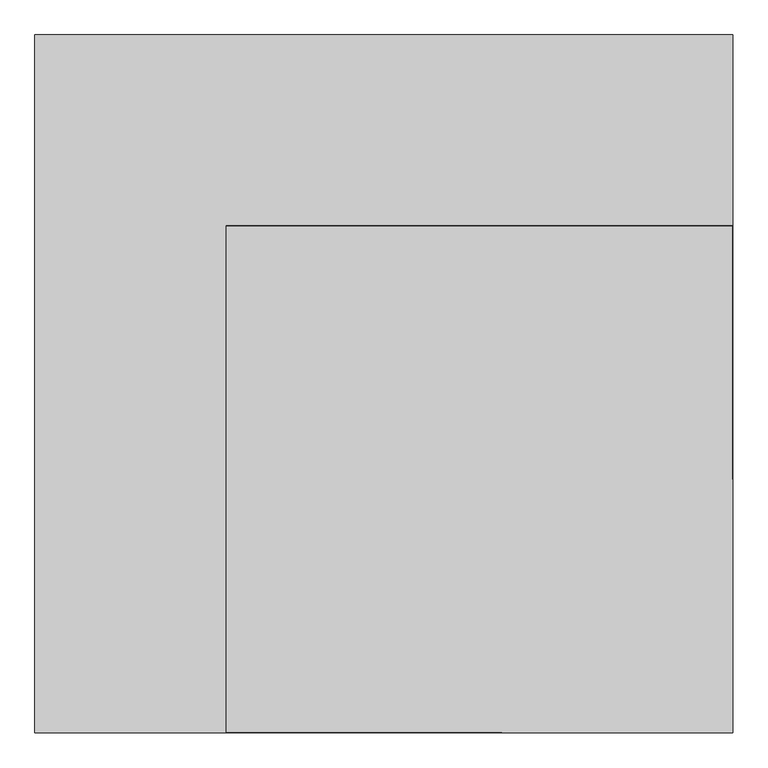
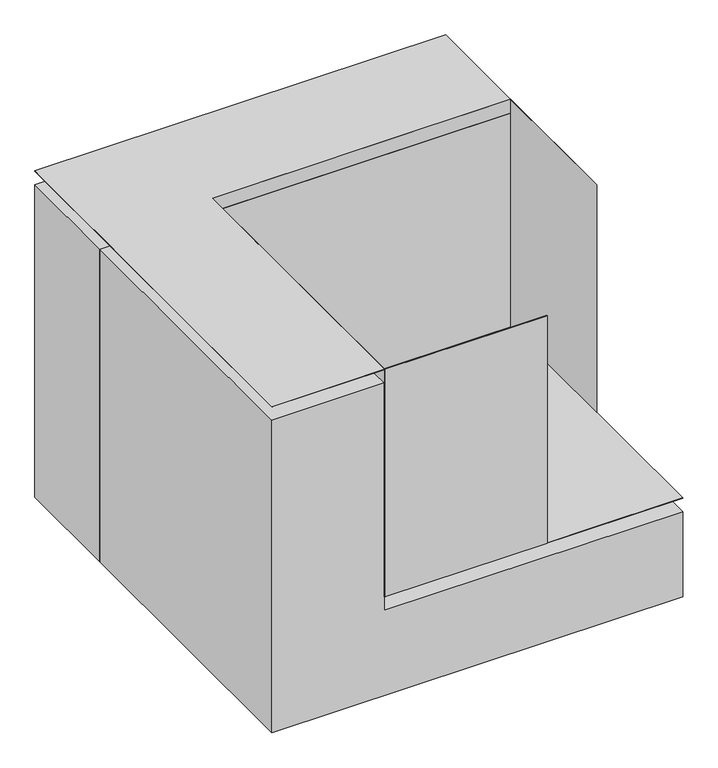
"""IFC4 building model written with IfcOpenShell, lengths in millimetres: proxy geometry, Modelos genéricos 1 : Modelos genéricos 1."""

from ifc_helpers import new_model, si_unit, frame, origin, place, context, project, spatial, polyline, outline, extrude, source, transform, mapped, element, save


def generic_models_eead5954(model_context):
    return source(origin(), model_context, "Body", "SweptSolid", [
        extrude(outline(polyline([(145.8700195, -590.623798), (145.8700195, -83.823798), (145.8700195, 1266.176202), (776.9717691, 1266.176202), (776.9717691, -590.623798), (145.8700195, -590.623798)])), frame((-1133.0721601, 0.0, 0.0), z_axis=(1.0, 0.0, 0.0), x_axis=(0.0, 1.0, 0.0)), (0.0, 0.0, 1.0), 2306.1017496),
        extrude(outline(polyline([(1173.0295895, 776.9717691), (1173.0295895, 147.1700195), (-501.9704105, 147.1700195), (-501.9704105, -1529.1299805), (-1133.0721601, -1529.1299805), (-1133.0721601, 776.9717691), (1173.0295895, 776.9717691)])), frame((0.0, 0.0, 1346.176202), z_axis=(0.0, 0.0, 1.0), x_axis=(1.0, 0.0, 0.0)), (0.0, 0.0, 1.0), 1.3),
        extrude(outline(polyline([(-501.9704105, 145.8700195), (-501.9704105, -1530.4299805), (-503.2704105, -1530.4299805), (-503.2704105, 145.8700195), (-501.9704105, 145.8700195)])), frame((0.0, 0.0, -2.523798), z_axis=(0.0, 0.0, 1.0), x_axis=(1.0, 0.0, 0.0)), (0.0, 0.0, 1.0), 1350.0),
        extrude(outline(polyline([(-501.9704105, -1529.1299805), (410.5295895, -1529.1299805), (410.5295895, -1530.4299805), (-501.9704105, -1530.4299805), (-501.9704105, -1529.1299805)])), frame((0.0, 0.0, -2.523798), z_axis=(0.0, 0.0, 1.0), x_axis=(1.0, 0.0, 0.0)), (0.0, 0.0, 1.0), 1350.0),
        extrude(outline(polyline([(1173.0295895, 145.8700195), (-501.9704105, 145.8700195), (-501.9704105, 147.1700195), (1174.3295895, 147.1700195), (1174.3295895, -691.6299805), (1173.0295895, -691.6299805), (1173.0295895, 145.8700195)])), frame((0.0, 0.0, -2.523798), z_axis=(0.0, 0.0, 1.0), x_axis=(1.0, 0.0, 0.0)), (0.0, 0.0, 1.0), 1350.0),
        extrude(outline(polyline([(1173.0295895, 145.8700195), (1173.0295895, -1529.1299805), (-501.9704105, -1529.1299805), (-501.9704105, 145.8700195), (1173.0295895, 145.8700195)])), frame((0.0, 0.0, -3.823798), z_axis=(0.0, 0.0, 1.0), x_axis=(1.0, 0.0, 0.0)), (0.0, 0.0, 1.0), 1.3),
        extrude(outline(polyline([(-590.623798, 1173.0295895), (-83.823798, 1173.0295895), (-83.823798, -501.9704105), (1266.176202, -501.9704105), (1266.176202, -1133.0721601), (-590.623798, -1133.0721601), (-590.623798, 1173.0295895)])), frame((0.0, -1529.1299805, 0.0), z_axis=(0.0, 1.0, 0.0), x_axis=(0.0, 0.0, 1.0)), (0.0, 0.0, 1.0), 1675.0),
    ])


if __name__ == "__main__":
    model = new_model("IFC4")
    model_context = context("Model", 3, world=origin())
    ifc_project = project(units=[si_unit("LENGTHUNIT", "METRE", prefix="MILLI")], contexts=[model_context])
    site = spatial("IfcSite", under=ifc_project)
    building = spatial("IfcBuilding", under=site)
    placement = place(None, origin())
    generic_models_shape = generic_models_eead5954(model_context)
    element("IfcBuildingElementProxy", 1, Name="Modelos genéricos 1 : Modelos genéricos 1", ObjectType="Modelos genéricos 1 : Modelos genéricos 1", at=placement, inside=building, context=model_context, shape_type="MappedRepresentation", body=[
        mapped(generic_models_shape, transform((0.0, 0.0, 0.0), x_axis=(1.0, 0.0, 0.0), y_axis=(0.0, 1.0, 0.0), z_axis=(0.0, 0.0, 1.0))),
    ])
    save(model, "model.ifc")
